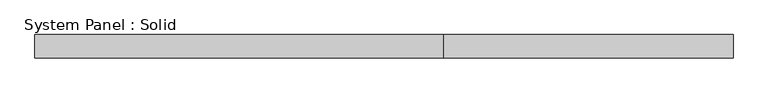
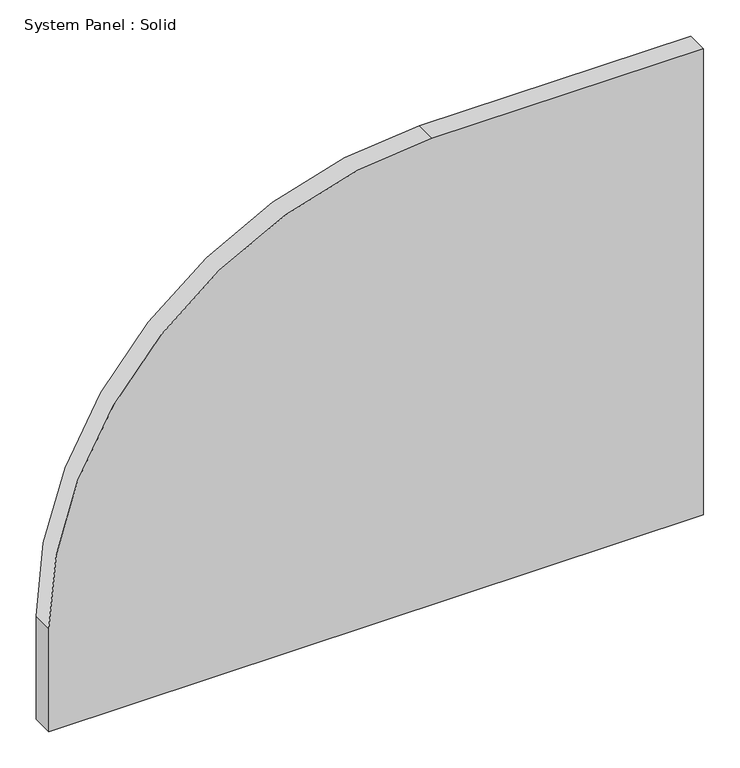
"""IFC4 building model written with IfcOpenShell, lengths in millimetres: plate geometry, System Panel : Solid."""

from ifc_helpers import new_model, si_unit, point, frame, frame_2d, origin, place, context, project, spatial, polyline, circle_curve, trimmed, segment, composite_curve, outline, extrude, source, transform, mapped, element, save


def system_panel_solid_9c654986(model_context):
    return source(origin(), model_context, "Body", "SweptSolid", [
        extrude(outline(composite_curve([segment(polyline([(0.0, -525.0000002), (0.0, 525.0000002), (790.0, 525.0000002), (790.0, 89.9999998)]), True, "CONTINUOUS"), segment(trimmed(circle_curve(frame_2d((175.0, 89.9999998)), 615.0), [point((790.0, 89.9999998))], [point((175.0, -525.0000002))], False, "CARTESIAN"), True, "CONTINUOUS"), segment(polyline([(175.0, -525.0000002), (0.0, -525.0000002)]), True, "CONTINUOUS")], self_intersect=False)), frame((0.0, -2.5, 0.0), z_axis=(0.0, 1.0, 0.0), x_axis=(0.0, 0.0, 1.0)), (0.0, 0.0, 1.0), 35.0),
    ])


if __name__ == "__main__":
    model = new_model("IFC4")
    model_context = context("Model", 3, world=origin())
    ifc_project = project(units=[si_unit("LENGTHUNIT", "METRE", prefix="MILLI")], contexts=[model_context])
    site = spatial("IfcSite", under=ifc_project)
    building = spatial("IfcBuilding", under=site)
    placement = place(None, origin())
    system_panel_solid_shape = system_panel_solid_9c654986(model_context)
    element("IfcPlate", 1, ObjectType="System Panel : Solid", at=placement, inside=building, context=model_context, shape_type="MappedRepresentation", body=[
        mapped(system_panel_solid_shape, transform((0.0, 0.0, 0.0), x_axis=(1.0, 0.0, 0.0), y_axis=(0.0, 1.0, 0.0), z_axis=(0.0, 0.0, 1.0))),
    ])
    save(model, "model.ifc")
